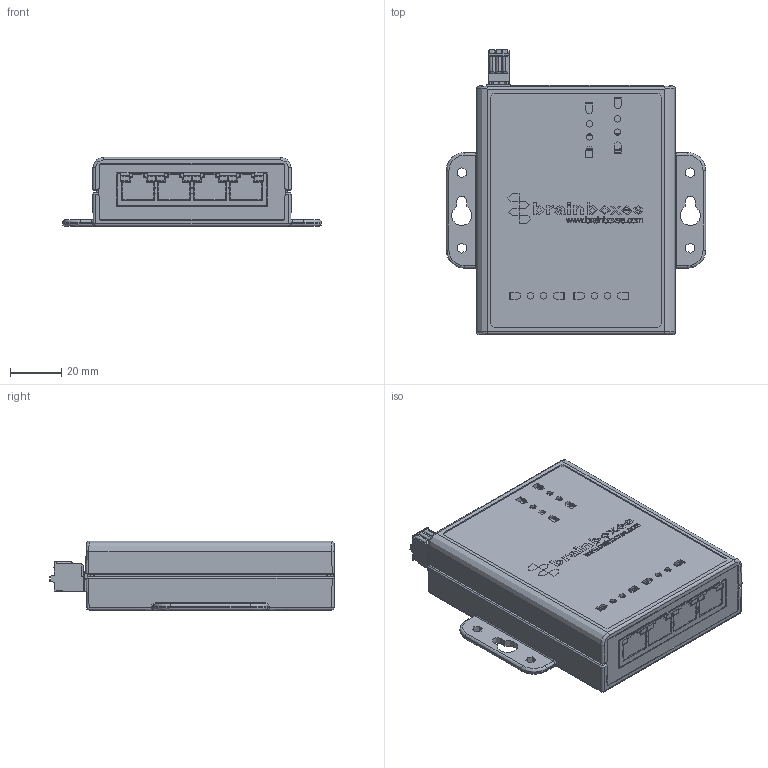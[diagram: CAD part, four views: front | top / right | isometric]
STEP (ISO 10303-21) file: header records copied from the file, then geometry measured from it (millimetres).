
FILE_DESCRIPTION(('STEP AP214'),'1');
FILE_NAME('SW-008 Cased 3D Step.step','2020-12-21T10:29:31',(' '),(' '),'Spatial InterOp 3D','XD3DPlugin XRACreate',' ');
FILE_SCHEMA(('automotive_design'));
Length unit declared in the file: millimetre
Products named in the file (44): Submodel-AssyDefn_18; BrainboxesLogo.step; SW-008 Cased 3D Step; Submodel-Input_S\SMDLEDRA.xtd; SMDLEDRA; Submodel-55SMDLEDRAGREEN_part_simplified_SMDLEDRA; DesignRootModel; Submodel-Input_S\SRR5028.xtd; SRR5028; Submodel-6610UH1A5_part_simplified_SRR5028; Submodel-Input_S\SMC.xtd; SMC; Submodel-55TZ1K5SMC36V_part_simplified_SMC; Submodel-Input_S\82HEA2MM54TBX3.xtd; 82HEA2MM54TBX3; Submodel-82HEA2MM54TBX3_part_simplified_TB_2MM54_3; Submodel-Input_S\00MAGJACK1X4.xtd; 00MAGJACK1X4; Submodel-00MAGJACK1X4_part_simplified_MAGJACK1X4A; Submodel-00MAGJACK1X4_part_simplified_MAGJACK1X4; Submodel-Input_S\SMD_ELEC_D.xtd; SMD_ELEC_D; Submodel-7547UF50V_part_simplified_SMD_ELEC_D; Submodel-Input_S\6610UH5A5.xtd; 6610UH5A5; Submodel-6610UH5A5_part_simplified_SRR1260; uid__9223372036854778920; Submodel-AssyDefn_17; CamdenEndPanel.sat; Submodel-AssyDefn_16; 82PLUG2MM54TBX3.sat; Submodel-AssyDefn_15; 00ESUSCASELID.sat; Submodel-AssyDefn_14; 00ESUSCASEBASE.sat; Submodel-noModelForPart_DATUM_2441444698; placementOutline; Submodel-DATUM_2441444698_part_DATUM; Submodel-noModelForPart_MOUNTINGHOLE_2132796670; Submodel-MOUNTINGHOLE_2132796670_part_MOUNTINGHOLE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
Assembly tree (52 placements, depth 5):
  SW-008 Cased 3D Step
    Submodel-AssyDefn_18
      BrainboxesLogo.step
    DesignRootModel
      Submodel-55SMDLEDRAGREEN_part_simplified_SMDLEDRA
        Submodel-Input_S\SMDLEDRA.xtd
          SMDLEDRA
      Submodel-6610UH1A5_part_simplified_SRR5028
        Submodel-Input_S\SRR5028.xtd
          SRR5028
      Submodel-55TZ1K5SMC36V_part_simplified_SMC  x4
        Submodel-Input_S\SMC.xtd
          SMC
      Submodel-82HEA2MM54TBX3_part_simplified_TB_2MM54_3
        Submodel-Input_S\82HEA2MM54TBX3.xtd
          82HEA2MM54TBX3
      Submodel-00MAGJACK1X4_part_simplified_MAGJACK1X4A
        Submodel-Input_S\00MAGJACK1X4.xtd
          00MAGJACK1X4
      Submodel-00MAGJACK1X4_part_simplified_MAGJACK1X4
        Submodel-Input_S\00MAGJACK1X4.xtd
          00MAGJACK1X4
      Submodel-7547UF50V_part_simplified_SMD_ELEC_D  x3
        Submodel-Input_S\SMD_ELEC_D.xtd
          SMD_ELEC_D
      Submodel-6610UH5A5_part_simplified_SRR1260
        Submodel-Input_S\6610UH5A5.xtd
          6610UH5A5
      uid__9223372036854778920
      Submodel-AssyDefn_18
        BrainboxesLogo.step
      Submodel-AssyDefn_17  x2
        CamdenEndPanel.sat
      Submodel-AssyDefn_16
        82PLUG2MM54TBX3.sat
      Submodel-AssyDefn_15
        00ESUSCASELID.sat
      Submodel-AssyDefn_14
        00ESUSCASEBASE.sat
      Submodel-DATUM_2441444698_part_DATUM
        Submodel-noModelForPart_DATUM_2441444698
          placementOutline
      Submodel-MOUNTINGHOLE_2132796670_part_MOUNTINGHOLE  x2
        Submodel-noModelForPart_MOUNTINGHOLE_2132796670
          placementOutline
      Submodel-75060310P_868548575_part_0603
        Submodel-noModelForPart_75060310P_868548575
          placementOutline
Bounding box: 101 x 111.12 x 27.1 mm (x, y, z)
Volume: 89725.6 mm3; surface area: 122077.1 mm2
Topology: 105 solids, 137 shells, 11787 faces, 33443 edges, 21874 vertices
Faces by surface type: plane 9578, cylinder 1341, bspline 704, torus 88, sphere 44, cone 32
Full cylindrical faces by diameter (mm): 3.81 x1
Entity records: 264527 total; most frequent: CARTESIAN_POINT 46329, ORIENTED_EDGE 36004, DIRECTION 31817, EDGE_CURVE 18002, LINE 15415, VECTOR 15415, VERTEX_POINT 11783, AXIS2_PLACEMENT_3D 8201
